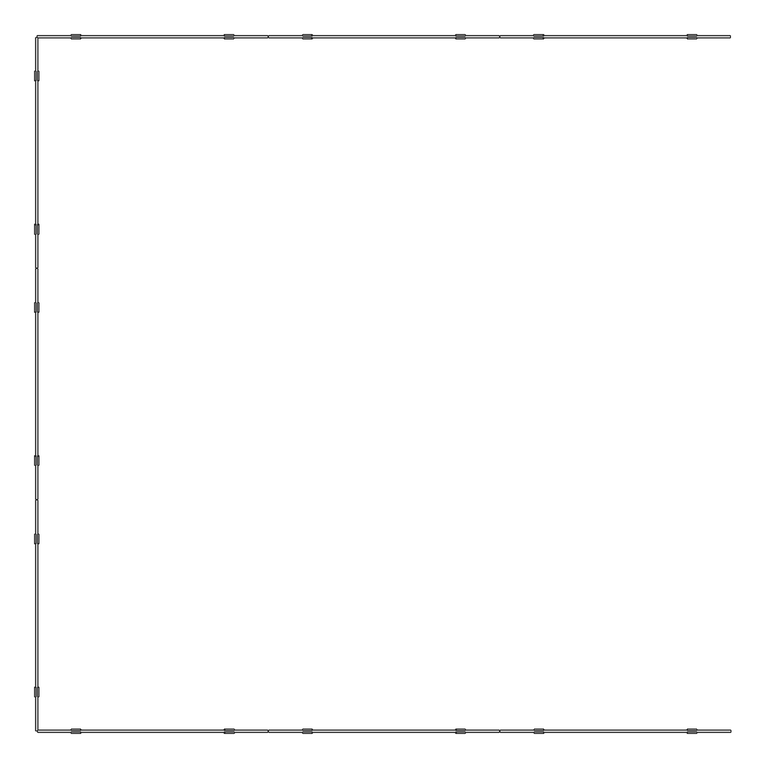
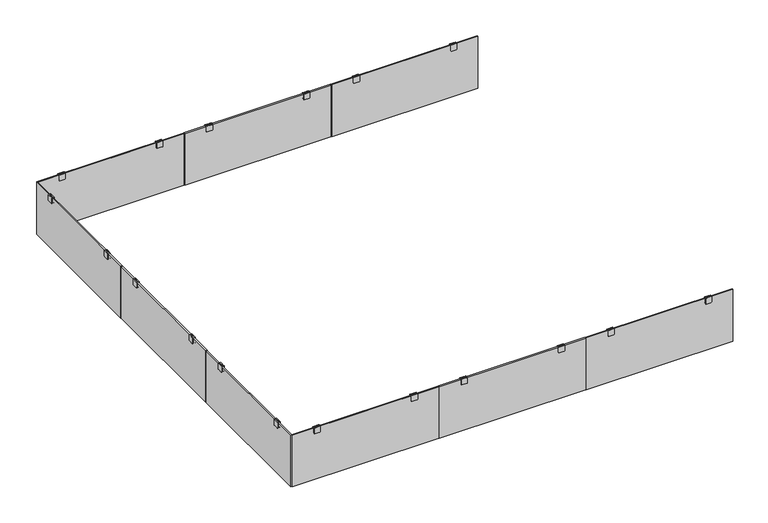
"""IFC4 building model written with IfcOpenShell, lengths in millimetres: railing geometry, Railing - VIVA Railings - Smoke Baffle System - Surface Mount."""

import ifcopenshell
import ifcopenshell.guid

model = None  # the IFC model being written
_history = None  # IfcOwnerHistory: only IFC2X3 demands one
_inside = {}  # id of a spatial element -> (the spatial element, [elements in it])
_under = {}  # id of a project, library or spatial element -> (it, [spatial elements below it])
_declared = {}  # id of a project -> (the project, [libraries it declares])
_typed = {}  # id of a type object -> (the type object, [elements of that type])
_made_of = {}  # id of a material, layer set ... -> (it, [elements and type objects made of it])


def new_model(schema):
    """Start an empty IFC model of exactly this schema.

    Asked for "IFC4X3", IfcOpenShell would pick the latest addendum, in which some entities
    have other attributes; the version numbers below select the first issue.
    IFC2X3 requires an IfcOwnerHistory on every rooted entity: one is made here for all.
    """
    global model, _history
    if schema == "IFC4X3":
        model = ifcopenshell.file(schema_version=(4, 3, 0, 0))
    else:
        model = ifcopenshell.file(schema=schema)
    _inside.clear()
    _under.clear()
    _declared.clear()
    _typed.clear()
    _made_of.clear()
    _history = None
    if model.schema == "IFC2X3":
        org = make("IfcOrganization", Name="unknown")
        user = make(
            "IfcPersonAndOrganization",
            ThePerson=make("IfcPerson", FamilyName="unknown"),
            TheOrganization=org,
        )
        app = make(
            "IfcApplication",
            ApplicationDeveloper=org,
            Version="unknown",
            ApplicationFullName="unknown",
            ApplicationIdentifier="unknown",
        )
        _history = make(
            "IfcOwnerHistory",
            OwningUser=user,
            OwningApplication=app,
            ChangeAction="ADDED",
            CreationDate=0,
        )
    return model


def make(cls, **values):
    """One entity of the class cls with the attributes given. An attribute that is None is left unset."""
    return model.create_entity(
        cls, **{name: value for name, value in values.items() if value is not None}
    )


def rooted(cls, **values):
    """An entity with a GlobalId (a new one), such as an element, a storey or a relation."""
    return make(cls, GlobalId=ifcopenshell.guid.new(), OwnerHistory=_history, **values)


def si_unit(unit_type, name, prefix=None):
    """IfcSIUnit, for example si_unit("LENGTHUNIT", "METRE", prefix="MILLI")."""
    return make("IfcSIUnit", UnitType=unit_type, Prefix=prefix, Name=name)


def assignment(units):
    """IfcUnitAssignment: the units of a project."""
    return None if units is None else make("IfcUnitAssignment", Units=units)


def point(xyz):
    """IfcCartesianPoint."""
    return None if xyz is None else make("IfcCartesianPoint", Coordinates=xyz)


def direction(xyz):
    """IfcDirection."""
    return None if xyz is None else make("IfcDirection", DirectionRatios=xyz)


def frame(location, z_axis=None, x_axis=None):
    """IfcAxis2Placement3D, a coordinate frame: its origin and axes. An axis left out is left unset."""
    return make(
        "IfcAxis2Placement3D",
        Location=point(location),
        Axis=direction(z_axis),
        RefDirection=direction(x_axis),
    )


def frame_2d(location, x_axis=None):
    """IfcAxis2Placement2D, a coordinate frame in the plane: its origin and x axis."""
    return make(
        "IfcAxis2Placement2D", Location=point(location), RefDirection=direction(x_axis)
    )


def origin():
    """The frame at (0, 0, 0) with its axes left unset."""
    return frame((0.0, 0.0, 0.0))


def place(relative_to, where):
    """IfcLocalPlacement: puts the frame where relative to a parent placement (None: the world)."""
    return make(
        "IfcLocalPlacement", PlacementRelTo=relative_to, RelativePlacement=where
    )


def context(
    kind, dimensions, precision=None, world=None, true_north=None, identifier=None
):
    """IfcGeometricRepresentationContext, for example the 3D "Model" context."""
    return make(
        "IfcGeometricRepresentationContext",
        ContextIdentifier=identifier,
        ContextType=kind,
        CoordinateSpaceDimension=dimensions,
        Precision=precision,
        WorldCoordinateSystem=world,
        TrueNorth=true_north,
    )


def project(units=None, contexts=None):
    """IfcProject with its units and contexts."""
    return rooted(
        "IfcProject",
        Name="project",
        RepresentationContexts=contexts,
        UnitsInContext=assignment(units),
    )


def spatial(cls, under=None, at=None, **own):
    """A site, building, storey or space (cls), placed at a placement, below another one or the project."""
    s = rooted(cls, ObjectPlacement=at, **own)
    if under is not None:
        _under.setdefault(under.id(), (under, []))[1].append(s)
    return s


def polyline(points):
    """IfcPolyline through the points."""
    return make("IfcPolyline", Points=[point(p) for p in points])


def circle_curve(where, radius):
    """IfcCircle in the frame where."""
    return make("IfcCircle", Position=where, Radius=radius)


def trimmed(basis, trim1, trim2, sense, master):
    """IfcTrimmedCurve: the piece of a basis curve between two trims."""
    return make(
        "IfcTrimmedCurve",
        BasisCurve=basis,
        Trim1=trim1,
        Trim2=trim2,
        SenseAgreement=sense,
        MasterRepresentation=master,
    )


def segment(curve, same_sense, transition):
    """IfcCompositeCurveSegment."""
    return make(
        "IfcCompositeCurveSegment",
        Transition=transition,
        SameSense=same_sense,
        ParentCurve=curve,
    )


def composite_curve(segments, self_intersect=None):
    """IfcCompositeCurve: segments joined end to end."""
    return make("IfcCompositeCurve", Segments=segments, SelfIntersect=self_intersect)


def outline(outer, holes=None, kind="AREA"):
    """IfcArbitraryClosedProfileDef: a profile drawn as a closed curve; with holes, ...WithVoids."""
    if holes is None:
        return make("IfcArbitraryClosedProfileDef", ProfileType=kind, OuterCurve=outer)
    return make(
        "IfcArbitraryProfileDefWithVoids",
        ProfileType=kind,
        OuterCurve=outer,
        InnerCurves=holes,
    )


def extrude(swept, where, along, depth):
    """IfcExtrudedAreaSolid: the profile swept, set in the frame where, extruded along a direction by depth."""
    return make(
        "IfcExtrudedAreaSolid",
        SweptArea=swept,
        Position=where,
        ExtrudedDirection=direction(along),
        Depth=depth,
    )


def shape(context_of_items, identifier, shape_type, items):
    """IfcShapeRepresentation: the items that make up one representation, for example the "Body"."""
    return make(
        "IfcShapeRepresentation",
        ContextOfItems=context_of_items,
        RepresentationIdentifier=identifier,
        RepresentationType=shape_type,
        Items=items,
    )


def source(mapping_origin, context_of_items, identifier, shape_type, items):
    """IfcRepresentationMap: a shape defined once, which mapped items show again and again."""
    return make(
        "IfcRepresentationMap",
        MappingOrigin=mapping_origin,
        MappedRepresentation=shape(context_of_items, identifier, shape_type, items),
    )


def transform(
    local_origin,
    x_axis=None,
    y_axis=None,
    z_axis=None,
    scale=None,
    scale2=None,
    scale3=None,
    uniform=True,
):
    """IfcCartesianTransformationOperator3D, or its non-uniform kind. x_axis, y_axis, z_axis: its Axis1, 2, 3."""
    if uniform:
        return make(
            "IfcCartesianTransformationOperator3D",
            Axis1=direction(x_axis),
            Axis2=direction(y_axis),
            LocalOrigin=point(local_origin),
            Scale=scale,
            Axis3=direction(z_axis),
        )
    return make(
        "IfcCartesianTransformationOperator3DnonUniform",
        Axis1=direction(x_axis),
        Axis2=direction(y_axis),
        LocalOrigin=point(local_origin),
        Scale=scale,
        Axis3=direction(z_axis),
        Scale2=scale2,
        Scale3=scale3,
    )


def mapped(mapping_source, mapping_target):
    """IfcMappedItem: shows the shape of a source again, moved by a transform."""
    return make(
        "IfcMappedItem", MappingSource=mapping_source, MappingTarget=mapping_target
    )


def made_of(thing, what):
    """Note that an element or type object is made of a material, layer set ...; save() writes the relation."""
    if what is not None:
        _made_of.setdefault(what.id(), (what, []))[1].append(thing)
    return thing


def element(
    cls,
    number,
    at=None,
    inside=None,
    cuts=None,
    type_object=None,
    material=None,
    context=None,
    identifier="Body",
    shape_type=None,
    held_by="IfcProductDefinitionShape",
    body=None,
    shapes=None,
    **own,
):
    """One element of the class cls, such as IfcWall. Its Tag is "e" and its number.

    at: its placement. inside: the storey or other place that contains it. cuts: it is an
    opening in that element (IfcRelVoidsElement). A single representation is given by context,
    identifier, shape_type and body (its items); several are given by shapes. held_by: the class
    of the entity that holds the representations. save() writes the other relations.
    """
    e = rooted(cls, Tag="e%d" % number, ObjectPlacement=at, **own)
    if body is not None:
        shapes = [shape(context, identifier, shape_type, body)]
    if shapes is not None:
        e.Representation = make(held_by, Representations=shapes)
    if inside is not None:
        _inside.setdefault(inside.id(), (inside, []))[1].append(e)
    if cuts is not None:
        rooted(
            "IfcRelVoidsElement", RelatingBuildingElement=cuts, RelatedOpeningElement=e
        )
    if type_object is not None:
        _typed.setdefault(type_object.id(), (type_object, []))[1].append(e)
    return made_of(e, material)


def aggregate(whole, parts):
    """IfcRelAggregates: a whole, such as a stair, and the parts it consists of."""
    return rooted("IfcRelAggregates", RelatingObject=whole, RelatedObjects=parts)


def save(model, path):
    """Write the relations noted so far, then the file.

    IfcRelAggregates (storeys below a building ...), IfcRelContainedInSpatialStructure (elements
    in a storey), IfcRelDefinesByType, IfcRelAssociatesMaterial and IfcRelDeclares: one each for
    every whole, place, type object, material and project.
    """
    for whole, parts in _under.values():
        aggregate(whole, parts)
    for where, things in _inside.values():
        rooted(
            "IfcRelContainedInSpatialStructure",
            RelatedElements=things,
            RelatingStructure=where,
        )
    for kind, things in _typed.values():
        rooted("IfcRelDefinesByType", RelatedObjects=things, RelatingType=kind)
    for what, things in _made_of.values():
        rooted("IfcRelAssociatesMaterial", RelatedObjects=things, RelatingMaterial=what)
    for by, libraries in _declared.values():
        rooted("IfcRelDeclares", RelatingContext=by, RelatedDefinitions=libraries)
    model.write(path)


def railing_4484aca7(model_context):
    return source(origin(), model_context, "Body", "SweptSolid", [
        extrude(outline(composite_curve([segment(polyline([(-120.6465092, -2225.1853816), (-76.3352319, -2225.1853816), (-76.3352319, -2228.9953816), (-76.3352319, -2275.9853816), (-120.5923479, -2275.9853816)]), True, "CONTINUOUS"), segment(trimmed(circle_curve(frame_2d((-120.5923479, -2269.4424976)), 6.542884), [point((-120.5923479, -2275.9853816))], [point((-127.1352319, -2269.4424976))], False, "CARTESIAN"), True, "CONTINUOUS"), segment(polyline([(-127.1352319, -2269.4424976), (-127.1352319, -2231.6741042)]), True, "CONTINUOUS"), segment(trimmed(circle_curve(frame_2d((-120.6465092, -2231.6741042)), 6.4887227), [point((-127.1352319, -2231.6741042))], [point((-120.6465092, -2225.1853816))], False, "CARTESIAN"), True, "CONTINUOUS")], self_intersect=False)), frame((0.0, 4760.0422749, 0.0), z_axis=(0.0, 1.0, 0.0), x_axis=(0.0, 0.0, 1.0)), (0.0, 0.0, 1.0), 4.5),
        extrude(outline(composite_curve([segment(polyline([(-120.6465092, -2225.1853816), (-76.3352319, -2225.1853816), (-76.3352319, -2228.9953816), (-76.3352319, -2275.9853816), (-120.5923479, -2275.9853816)]), True, "CONTINUOUS"), segment(trimmed(circle_curve(frame_2d((-120.5923479, -2269.4424976)), 6.542884), [point((-120.5923479, -2275.9853816))], [point((-127.1352319, -2269.4424976))], False, "CARTESIAN"), True, "CONTINUOUS"), segment(polyline([(-127.1352319, -2269.4424976), (-127.1352319, -2231.6741042)]), True, "CONTINUOUS"), segment(trimmed(circle_curve(frame_2d((-120.6465092, -2231.6741042)), 6.4887227), [point((-127.1352319, -2231.6741042))], [point((-120.6465092, -2225.1853816))], False, "CARTESIAN"), True, "CONTINUOUS")], self_intersect=False)), frame((0.0, 4744.0222749, 0.0), z_axis=(0.0, 1.0, 0.0), x_axis=(0.0, 0.0, 1.0)), (0.0, 0.0, 1.0), 4.5),
        extrude(outline(composite_curve([segment(trimmed(circle_curve(frame_2d((-120.6465092, -1463.0466589)), 6.4887227), [point((-120.6465092, -1469.5353816))], [point((-127.1352319, -1463.0466589))], False, "CARTESIAN"), True, "CONTINUOUS"), segment(polyline([(-127.1352319, -1463.0466589), (-127.1352319, -1425.2782656)]), True, "CONTINUOUS"), segment(trimmed(circle_curve(frame_2d((-120.5923479, -1425.2782656)), 6.542884), [point((-127.1352319, -1425.2782656))], [point((-120.5923479, -1418.7353816))], False, "CARTESIAN"), True, "CONTINUOUS"), segment(polyline([(-120.5923479, -1418.7353816), (-76.3352319, -1418.7353816), (-76.3352319, -1465.7253816), (-76.3352319, -1469.5353816), (-120.6465092, -1469.5353816)]), True, "CONTINUOUS")], self_intersect=False)), frame((0.0, 4760.0422749, 0.0), z_axis=(0.0, 1.0, 0.0), x_axis=(0.0, 0.0, 1.0)), (0.0, 0.0, 1.0), 4.5),
        extrude(outline(composite_curve([segment(trimmed(circle_curve(frame_2d((-120.6465092, -1463.0466589)), 6.4887227), [point((-120.6465092, -1469.5353816))], [point((-127.1352319, -1463.0466589))], False, "CARTESIAN"), True, "CONTINUOUS"), segment(polyline([(-127.1352319, -1463.0466589), (-127.1352319, -1425.2782656)]), True, "CONTINUOUS"), segment(trimmed(circle_curve(frame_2d((-120.5923479, -1425.2782656)), 6.542884), [point((-127.1352319, -1425.2782656))], [point((-120.5923479, -1418.7353816))], False, "CARTESIAN"), True, "CONTINUOUS"), segment(polyline([(-120.5923479, -1418.7353816), (-76.3352319, -1418.7353816), (-76.3352319, -1465.7253816), (-76.3352319, -1469.5353816), (-120.6465092, -1469.5353816)]), True, "CONTINUOUS")], self_intersect=False)), frame((0.0, 4744.0222749, 0.0), z_axis=(0.0, 1.0, 0.0), x_axis=(0.0, 0.0, 1.0)), (0.0, 0.0, 1.0), 4.5),
        extrude(outline(polyline([(-2453.8336169, 4759.0447749), (-1240.9353816, 4759.0447749), (-1240.9353816, 4749.5197749), (-2453.8336169, 4749.5197749), (-2453.8336169, 4759.0447749)])), frame((0.0, 0.0, -533.003125), z_axis=(0.0, 0.0, 1.0), x_axis=(1.0, 0.0, 0.0)), (0.0, 0.0, 1.0), 452.8054687),
        extrude(outline(composite_curve([segment(polyline([(-120.6465092, -3444.3853816), (-76.3352319, -3444.3853816), (-76.3352319, -3448.1953816), (-76.3352319, -3495.1853816), (-120.5923479, -3495.1853816)]), True, "CONTINUOUS"), segment(trimmed(circle_curve(frame_2d((-120.5923479, -3488.6424976)), 6.542884), [point((-120.5923479, -3495.1853816))], [point((-127.1352319, -3488.6424976))], False, "CARTESIAN"), True, "CONTINUOUS"), segment(polyline([(-127.1352319, -3488.6424976), (-127.1352319, -3450.8741042)]), True, "CONTINUOUS"), segment(trimmed(circle_curve(frame_2d((-120.6465092, -3450.8741042)), 6.4887227), [point((-127.1352319, -3450.8741042))], [point((-120.6465092, -3444.3853816))], False, "CARTESIAN"), True, "CONTINUOUS")], self_intersect=False)), frame((0.0, 4760.0422749, 0.0), z_axis=(0.0, 1.0, 0.0), x_axis=(0.0, 0.0, 1.0)), (0.0, 0.0, 1.0), 4.5),
        extrude(outline(composite_curve([segment(polyline([(-120.6465092, -3444.3853816), (-76.3352319, -3444.3853816), (-76.3352319, -3448.1953816), (-76.3352319, -3495.1853816), (-120.5923479, -3495.1853816)]), True, "CONTINUOUS"), segment(trimmed(circle_curve(frame_2d((-120.5923479, -3488.6424976)), 6.542884), [point((-120.5923479, -3495.1853816))], [point((-127.1352319, -3488.6424976))], False, "CARTESIAN"), True, "CONTINUOUS"), segment(polyline([(-127.1352319, -3488.6424976), (-127.1352319, -3450.8741042)]), True, "CONTINUOUS"), segment(trimmed(circle_curve(frame_2d((-120.6465092, -3450.8741042)), 6.4887227), [point((-127.1352319, -3450.8741042))], [point((-120.6465092, -3444.3853816))], False, "CARTESIAN"), True, "CONTINUOUS")], self_intersect=False)), frame((0.0, 4744.0222749, 0.0), z_axis=(0.0, 1.0, 0.0), x_axis=(0.0, 0.0, 1.0)), (0.0, 0.0, 1.0), 4.5),
        extrude(outline(composite_curve([segment(trimmed(circle_curve(frame_2d((-120.6465092, -2682.2466589)), 6.4887227), [point((-120.6465092, -2688.7353816))], [point((-127.1352319, -2682.2466589))], False, "CARTESIAN"), True, "CONTINUOUS"), segment(polyline([(-127.1352319, -2682.2466589), (-127.1352319, -2644.4782656)]), True, "CONTINUOUS"), segment(trimmed(circle_curve(frame_2d((-120.5923479, -2644.4782656)), 6.542884), [point((-127.1352319, -2644.4782656))], [point((-120.5923479, -2637.9353816))], False, "CARTESIAN"), True, "CONTINUOUS"), segment(polyline([(-120.5923479, -2637.9353816), (-76.3352319, -2637.9353816), (-76.3352319, -2684.9253816), (-76.3352319, -2688.7353816), (-120.6465092, -2688.7353816)]), True, "CONTINUOUS")], self_intersect=False)), frame((0.0, 4760.0422749, 0.0), z_axis=(0.0, 1.0, 0.0), x_axis=(0.0, 0.0, 1.0)), (0.0, 0.0, 1.0), 4.5),
        extrude(outline(composite_curve([segment(trimmed(circle_curve(frame_2d((-120.6465092, -2682.2466589)), 6.4887227), [point((-120.6465092, -2688.7353816))], [point((-127.1352319, -2682.2466589))], False, "CARTESIAN"), True, "CONTINUOUS"), segment(polyline([(-127.1352319, -2682.2466589), (-127.1352319, -2644.4782656)]), True, "CONTINUOUS"), segment(trimmed(circle_curve(frame_2d((-120.5923479, -2644.4782656)), 6.542884), [point((-127.1352319, -2644.4782656))], [point((-120.5923479, -2637.9353816))], False, "CARTESIAN"), True, "CONTINUOUS"), segment(polyline([(-120.5923479, -2637.9353816), (-76.3352319, -2637.9353816), (-76.3352319, -2684.9253816), (-76.3352319, -2688.7353816), (-120.6465092, -2688.7353816)]), True, "CONTINUOUS")], self_intersect=False)), frame((0.0, 4744.0222749, 0.0), z_axis=(0.0, 1.0, 0.0), x_axis=(0.0, 0.0, 1.0)), (0.0, 0.0, 1.0), 4.5),
        extrude(outline(polyline([(-3673.0336169, 4759.0447749), (-2460.1353816, 4759.0447749), (-2460.1353816, 4749.5197749), (-3673.0336169, 4749.5197749), (-3673.0336169, 4759.0447749)])), frame((0.0, 0.0, -533.003125), z_axis=(0.0, 0.0, 1.0), x_axis=(1.0, 0.0, 0.0)), (0.0, 0.0, 1.0), 452.8054687),
        extrude(outline(composite_curve([segment(polyline([(-120.6465092, -4663.5853816), (-76.3352319, -4663.5853816), (-76.3352319, -4667.3953816), (-76.3352319, -4714.3853816), (-120.5923479, -4714.3853816)]), True, "CONTINUOUS"), segment(trimmed(circle_curve(frame_2d((-120.5923479, -4707.8424976)), 6.542884), [point((-120.5923479, -4714.3853816))], [point((-127.1352319, -4707.8424976))], False, "CARTESIAN"), True, "CONTINUOUS"), segment(polyline([(-127.1352319, -4707.8424976), (-127.1352319, -4670.0741042)]), True, "CONTINUOUS"), segment(trimmed(circle_curve(frame_2d((-120.6465092, -4670.0741042)), 6.4887227), [point((-127.1352319, -4670.0741042))], [point((-120.6465092, -4663.5853816))], False, "CARTESIAN"), True, "CONTINUOUS")], self_intersect=False)), frame((0.0, 4760.0422749, 0.0), z_axis=(0.0, 1.0, 0.0), x_axis=(0.0, 0.0, 1.0)), (0.0, 0.0, 1.0), 4.5),
        extrude(outline(composite_curve([segment(polyline([(-120.6465092, -4663.5853816), (-76.3352319, -4663.5853816), (-76.3352319, -4667.3953816), (-76.3352319, -4714.3853816), (-120.5923479, -4714.3853816)]), True, "CONTINUOUS"), segment(trimmed(circle_curve(frame_2d((-120.5923479, -4707.8424976)), 6.542884), [point((-120.5923479, -4714.3853816))], [point((-127.1352319, -4707.8424976))], False, "CARTESIAN"), True, "CONTINUOUS"), segment(polyline([(-127.1352319, -4707.8424976), (-127.1352319, -4670.0741042)]), True, "CONTINUOUS"), segment(trimmed(circle_curve(frame_2d((-120.6465092, -4670.0741042)), 6.4887227), [point((-127.1352319, -4670.0741042))], [point((-120.6465092, -4663.5853816))], False, "CARTESIAN"), True, "CONTINUOUS")], self_intersect=False)), frame((0.0, 4744.0222749, 0.0), z_axis=(0.0, 1.0, 0.0), x_axis=(0.0, 0.0, 1.0)), (0.0, 0.0, 1.0), 4.5),
        extrude(outline(composite_curve([segment(trimmed(circle_curve(frame_2d((-120.6465092, -3901.4466589)), 6.4887227), [point((-120.6465092, -3907.9353816))], [point((-127.1352319, -3901.4466589))], False, "CARTESIAN"), True, "CONTINUOUS"), segment(polyline([(-127.1352319, -3901.4466589), (-127.1352319, -3863.6782656)]), True, "CONTINUOUS"), segment(trimmed(circle_curve(frame_2d((-120.5923479, -3863.6782656)), 6.542884), [point((-127.1352319, -3863.6782656))], [point((-120.5923479, -3857.1353816))], False, "CARTESIAN"), True, "CONTINUOUS"), segment(polyline([(-120.5923479, -3857.1353816), (-76.3352319, -3857.1353816), (-76.3352319, -3904.1253816), (-76.3352319, -3907.9353816), (-120.6465092, -3907.9353816)]), True, "CONTINUOUS")], self_intersect=False)), frame((0.0, 4760.0422749, 0.0), z_axis=(0.0, 1.0, 0.0), x_axis=(0.0, 0.0, 1.0)), (0.0, 0.0, 1.0), 4.5),
        extrude(outline(composite_curve([segment(trimmed(circle_curve(frame_2d((-120.6465092, -3901.4466589)), 6.4887227), [point((-120.6465092, -3907.9353816))], [point((-127.1352319, -3901.4466589))], False, "CARTESIAN"), True, "CONTINUOUS"), segment(polyline([(-127.1352319, -3901.4466589), (-127.1352319, -3863.6782656)]), True, "CONTINUOUS"), segment(trimmed(circle_curve(frame_2d((-120.5923479, -3863.6782656)), 6.542884), [point((-127.1352319, -3863.6782656))], [point((-120.5923479, -3857.1353816))], False, "CARTESIAN"), True, "CONTINUOUS"), segment(polyline([(-120.5923479, -3857.1353816), (-76.3352319, -3857.1353816), (-76.3352319, -3904.1253816), (-76.3352319, -3907.9353816), (-120.6465092, -3907.9353816)]), True, "CONTINUOUS")], self_intersect=False)), frame((0.0, 4744.0222749, 0.0), z_axis=(0.0, 1.0, 0.0), x_axis=(0.0, 0.0, 1.0)), (0.0, 0.0, 1.0), 4.5),
        extrude(outline(polyline([(-4892.2336169, 4759.0447749), (-3679.3353816, 4759.0447749), (-3679.3353816, 4749.5197749), (-4892.2336169, 4749.5197749), (-4892.2336169, 4759.0447749)])), frame((0.0, 0.0, -533.003125), z_axis=(0.0, 0.0, 1.0), x_axis=(1.0, 0.0, 0.0)), (0.0, 0.0, 1.0), 452.8054687),
        extrude(outline(composite_curve([segment(polyline([(5741.3242283, -120.6465092), (5741.3242283, -76.3352319), (5745.1342283, -76.3352319), (5792.1242283, -76.3352319), (5792.1242283, -120.5923479)]), True, "CONTINUOUS"), segment(trimmed(circle_curve(frame_2d((5785.5813443, -120.5923479)), 6.542884), [point((5792.1242283, -120.5923479))], [point((5785.5813443, -127.1352319))], False, "CARTESIAN"), True, "CONTINUOUS"), segment(polyline([(5785.5813443, -127.1352319), (5747.8129509, -127.1352319)]), True, "CONTINUOUS"), segment(trimmed(circle_curve(frame_2d((5747.8129509, -120.6465092)), 6.4887227), [point((5747.8129509, -127.1352319))], [point((5741.3242283, -120.6465092))], False, "CARTESIAN"), True, "CONTINUOUS")], self_intersect=False)), frame((-4889.9834282, 0.0, 0.0), z_axis=(1.0, 0.0, 0.0), x_axis=(0.0, 1.0, 0.0)), (0.0, 0.0, 1.0), 4.5),
        extrude(outline(composite_curve([segment(polyline([(5741.3242283, -120.6465092), (5741.3242283, -76.3352319), (5745.1342283, -76.3352319), (5792.1242283, -76.3352319), (5792.1242283, -120.5923479)]), True, "CONTINUOUS"), segment(trimmed(circle_curve(frame_2d((5785.5813443, -120.5923479)), 6.542884), [point((5792.1242283, -120.5923479))], [point((5785.5813443, -127.1352319))], False, "CARTESIAN"), True, "CONTINUOUS"), segment(polyline([(5785.5813443, -127.1352319), (5747.8129509, -127.1352319)]), True, "CONTINUOUS"), segment(trimmed(circle_curve(frame_2d((5747.8129509, -120.6465092)), 6.4887227), [point((5747.8129509, -127.1352319))], [point((5741.3242283, -120.6465092))], False, "CARTESIAN"), True, "CONTINUOUS")], self_intersect=False)), frame((-4906.0034282, 0.0, 0.0), z_axis=(1.0, 0.0, 0.0), x_axis=(0.0, 1.0, 0.0)), (0.0, 0.0, 1.0), 4.5),
        extrude(outline(composite_curve([segment(trimmed(circle_curve(frame_2d((4979.1855056, -120.6465092)), 6.4887227), [point((4985.6742283, -120.6465092))], [point((4979.1855056, -127.1352319))], False, "CARTESIAN"), True, "CONTINUOUS"), segment(polyline([(4979.1855056, -127.1352319), (4941.4171122, -127.1352319)]), True, "CONTINUOUS"), segment(trimmed(circle_curve(frame_2d((4941.4171122, -120.5923479)), 6.542884), [point((4941.4171122, -127.1352319))], [point((4934.8742283, -120.5923479))], False, "CARTESIAN"), True, "CONTINUOUS"), segment(polyline([(4934.8742283, -120.5923479), (4934.8742283, -76.3352319), (4981.8642283, -76.3352319), (4985.6742283, -76.3352319), (4985.6742283, -120.6465092)]), True, "CONTINUOUS")], self_intersect=False)), frame((-4889.9834282, 0.0, 0.0), z_axis=(1.0, 0.0, 0.0), x_axis=(0.0, 1.0, 0.0)), (0.0, 0.0, 1.0), 4.5),
        extrude(outline(composite_curve([segment(trimmed(circle_curve(frame_2d((4979.1855056, -120.6465092)), 6.4887227), [point((4985.6742283, -120.6465092))], [point((4979.1855056, -127.1352319))], False, "CARTESIAN"), True, "CONTINUOUS"), segment(polyline([(4979.1855056, -127.1352319), (4941.4171122, -127.1352319)]), True, "CONTINUOUS"), segment(trimmed(circle_curve(frame_2d((4941.4171122, -120.5923479)), 6.542884), [point((4941.4171122, -127.1352319))], [point((4934.8742283, -120.5923479))], False, "CARTESIAN"), True, "CONTINUOUS"), segment(polyline([(4934.8742283, -120.5923479), (4934.8742283, -76.3352319), (4981.8642283, -76.3352319), (4985.6742283, -76.3352319), (4985.6742283, -120.6465092)]), True, "CONTINUOUS")], self_intersect=False)), frame((-4906.0034282, 0.0, 0.0), z_axis=(1.0, 0.0, 0.0), x_axis=(0.0, 1.0, 0.0)), (0.0, 0.0, 1.0), 4.5),
        extrude(outline(polyline([(-4890.9809282, 5969.9724636), (-4890.9809282, 4757.0742283), (-4900.5059282, 4757.0742283), (-4900.5059282, 5969.9724636), (-4890.9809282, 5969.9724636)])), frame((0.0, 0.0, -533.003125), z_axis=(0.0, 0.0, 1.0), x_axis=(1.0, 0.0, 0.0)), (0.0, 0.0, 1.0), 452.8054687),
        extrude(outline(composite_curve([segment(polyline([(6960.5242283, -120.6465092), (6960.5242283, -76.3352319), (6964.3342283, -76.3352319), (7011.3242283, -76.3352319), (7011.3242283, -120.5923479)]), True, "CONTINUOUS"), segment(trimmed(circle_curve(frame_2d((7004.7813443, -120.5923479)), 6.542884), [point((7011.3242283, -120.5923479))], [point((7004.7813443, -127.1352319))], False, "CARTESIAN"), True, "CONTINUOUS"), segment(polyline([(7004.7813443, -127.1352319), (6967.0129509, -127.1352319)]), True, "CONTINUOUS"), segment(trimmed(circle_curve(frame_2d((6967.0129509, -120.6465092)), 6.4887227), [point((6967.0129509, -127.1352319))], [point((6960.5242283, -120.6465092))], False, "CARTESIAN"), True, "CONTINUOUS")], self_intersect=False)), frame((-4889.9834282, 0.0, 0.0), z_axis=(1.0, 0.0, 0.0), x_axis=(0.0, 1.0, 0.0)), (0.0, 0.0, 1.0), 4.5),
        extrude(outline(composite_curve([segment(polyline([(6960.5242283, -120.6465092), (6960.5242283, -76.3352319), (6964.3342283, -76.3352319), (7011.3242283, -76.3352319), (7011.3242283, -120.5923479)]), True, "CONTINUOUS"), segment(trimmed(circle_curve(frame_2d((7004.7813443, -120.5923479)), 6.542884), [point((7011.3242283, -120.5923479))], [point((7004.7813443, -127.1352319))], False, "CARTESIAN"), True, "CONTINUOUS"), segment(polyline([(7004.7813443, -127.1352319), (6967.0129509, -127.1352319)]), True, "CONTINUOUS"), segment(trimmed(circle_curve(frame_2d((6967.0129509, -120.6465092)), 6.4887227), [point((6967.0129509, -127.1352319))], [point((6960.5242283, -120.6465092))], False, "CARTESIAN"), True, "CONTINUOUS")], self_intersect=False)), frame((-4906.0034282, 0.0, 0.0), z_axis=(1.0, 0.0, 0.0), x_axis=(0.0, 1.0, 0.0)), (0.0, 0.0, 1.0), 4.5),
        extrude(outline(composite_curve([segment(trimmed(circle_curve(frame_2d((6198.3855056, -120.6465092)), 6.4887227), [point((6204.8742283, -120.6465092))], [point((6198.3855056, -127.1352319))], False, "CARTESIAN"), True, "CONTINUOUS"), segment(polyline([(6198.3855056, -127.1352319), (6160.6171122, -127.1352319)]), True, "CONTINUOUS"), segment(trimmed(circle_curve(frame_2d((6160.6171122, -120.5923479)), 6.542884), [point((6160.6171122, -127.1352319))], [point((6154.0742283, -120.5923479))], False, "CARTESIAN"), True, "CONTINUOUS"), segment(polyline([(6154.0742283, -120.5923479), (6154.0742283, -76.3352319), (6201.0642283, -76.3352319), (6204.8742283, -76.3352319), (6204.8742283, -120.6465092)]), True, "CONTINUOUS")], self_intersect=False)), frame((-4889.9834282, 0.0, 0.0), z_axis=(1.0, 0.0, 0.0), x_axis=(0.0, 1.0, 0.0)), (0.0, 0.0, 1.0), 4.5),
        extrude(outline(composite_curve([segment(trimmed(circle_curve(frame_2d((6198.3855056, -120.6465092)), 6.4887227), [point((6204.8742283, -120.6465092))], [point((6198.3855056, -127.1352319))], False, "CARTESIAN"), True, "CONTINUOUS"), segment(polyline([(6198.3855056, -127.1352319), (6160.6171122, -127.1352319)]), True, "CONTINUOUS"), segment(trimmed(circle_curve(frame_2d((6160.6171122, -120.5923479)), 6.542884), [point((6160.6171122, -127.1352319))], [point((6154.0742283, -120.5923479))], False, "CARTESIAN"), True, "CONTINUOUS"), segment(polyline([(6154.0742283, -120.5923479), (6154.0742283, -76.3352319), (6201.0642283, -76.3352319), (6204.8742283, -76.3352319), (6204.8742283, -120.6465092)]), True, "CONTINUOUS")], self_intersect=False)), frame((-4906.0034282, 0.0, 0.0), z_axis=(1.0, 0.0, 0.0), x_axis=(0.0, 1.0, 0.0)), (0.0, 0.0, 1.0), 4.5),
        extrude(outline(polyline([(-4890.9809282, 7189.1724636), (-4890.9809282, 5976.2742283), (-4900.5059282, 5976.2742283), (-4900.5059282, 7189.1724636), (-4890.9809282, 7189.1724636)])), frame((0.0, 0.0, -533.003125), z_axis=(0.0, 0.0, 1.0), x_axis=(1.0, 0.0, 0.0)), (0.0, 0.0, 1.0), 452.8054687),
        extrude(outline(composite_curve([segment(polyline([(8179.7242283, -120.6465092), (8179.7242283, -76.3352319), (8183.5342283, -76.3352319), (8230.5242283, -76.3352319), (8230.5242283, -120.5923479)]), True, "CONTINUOUS"), segment(trimmed(circle_curve(frame_2d((8223.9813443, -120.5923479)), 6.542884), [point((8230.5242283, -120.5923479))], [point((8223.9813443, -127.1352319))], False, "CARTESIAN"), True, "CONTINUOUS"), segment(polyline([(8223.9813443, -127.1352319), (8186.2129509, -127.1352319)]), True, "CONTINUOUS"), segment(trimmed(circle_curve(frame_2d((8186.2129509, -120.6465092)), 6.4887227), [point((8186.2129509, -127.1352319))], [point((8179.7242283, -120.6465092))], False, "CARTESIAN"), True, "CONTINUOUS")], self_intersect=False)), frame((-4889.9834282, 0.0, 0.0), z_axis=(1.0, 0.0, 0.0), x_axis=(0.0, 1.0, 0.0)), (0.0, 0.0, 1.0), 4.5),
        extrude(outline(composite_curve([segment(polyline([(8179.7242283, -120.6465092), (8179.7242283, -76.3352319), (8183.5342283, -76.3352319), (8230.5242283, -76.3352319), (8230.5242283, -120.5923479)]), True, "CONTINUOUS"), segment(trimmed(circle_curve(frame_2d((8223.9813443, -120.5923479)), 6.542884), [point((8230.5242283, -120.5923479))], [point((8223.9813443, -127.1352319))], False, "CARTESIAN"), True, "CONTINUOUS"), segment(polyline([(8223.9813443, -127.1352319), (8186.2129509, -127.1352319)]), True, "CONTINUOUS"), segment(trimmed(circle_curve(frame_2d((8186.2129509, -120.6465092)), 6.4887227), [point((8186.2129509, -127.1352319))], [point((8179.7242283, -120.6465092))], False, "CARTESIAN"), True, "CONTINUOUS")], self_intersect=False)), frame((-4906.0034282, 0.0, 0.0), z_axis=(1.0, 0.0, 0.0), x_axis=(0.0, 1.0, 0.0)), (0.0, 0.0, 1.0), 4.5),
        extrude(outline(composite_curve([segment(trimmed(circle_curve(frame_2d((7417.5855056, -120.6465092)), 6.4887227), [point((7424.0742283, -120.6465092))], [point((7417.5855056, -127.1352319))], False, "CARTESIAN"), True, "CONTINUOUS"), segment(polyline([(7417.5855056, -127.1352319), (7379.8171122, -127.1352319)]), True, "CONTINUOUS"), segment(trimmed(circle_curve(frame_2d((7379.8171122, -120.5923479)), 6.542884), [point((7379.8171122, -127.1352319))], [point((7373.2742283, -120.5923479))], False, "CARTESIAN"), True, "CONTINUOUS"), segment(polyline([(7373.2742283, -120.5923479), (7373.2742283, -76.3352319), (7420.2642283, -76.3352319), (7424.0742283, -76.3352319), (7424.0742283, -120.6465092)]), True, "CONTINUOUS")], self_intersect=False)), frame((-4889.9834282, 0.0, 0.0), z_axis=(1.0, 0.0, 0.0), x_axis=(0.0, 1.0, 0.0)), (0.0, 0.0, 1.0), 4.5),
        extrude(outline(composite_curve([segment(trimmed(circle_curve(frame_2d((7417.5855056, -120.6465092)), 6.4887227), [point((7424.0742283, -120.6465092))], [point((7417.5855056, -127.1352319))], False, "CARTESIAN"), True, "CONTINUOUS"), segment(polyline([(7417.5855056, -127.1352319), (7379.8171122, -127.1352319)]), True, "CONTINUOUS"), segment(trimmed(circle_curve(frame_2d((7379.8171122, -120.5923479)), 6.542884), [point((7379.8171122, -127.1352319))], [point((7373.2742283, -120.5923479))], False, "CARTESIAN"), True, "CONTINUOUS"), segment(polyline([(7373.2742283, -120.5923479), (7373.2742283, -76.3352319), (7420.2642283, -76.3352319), (7424.0742283, -76.3352319), (7424.0742283, -120.6465092)]), True, "CONTINUOUS")], self_intersect=False)), frame((-4906.0034282, 0.0, 0.0), z_axis=(1.0, 0.0, 0.0), x_axis=(0.0, 1.0, 0.0)), (0.0, 0.0, 1.0), 4.5),
        extrude(outline(polyline([(-4890.9809282, 8408.3724636), (-4890.9809282, 7195.4742283), (-4900.5059282, 7195.4742283), (-4900.5059282, 8408.3724636), (-4890.9809282, 8408.3724636)])), frame((0.0, 0.0, -533.003125), z_axis=(0.0, 0.0, 1.0), x_axis=(1.0, 0.0, 0.0)), (0.0, 0.0, 1.0), 452.8054687),
        extrude(outline(composite_curve([segment(trimmed(circle_curve(frame_2d((-120.6465092, -3902.2127521)), 6.4887227), [point((-120.6465092, -3908.7014748))], [point((-127.1352319, -3902.2127521))], False, "CARTESIAN"), True, "CONTINUOUS"), segment(polyline([(-127.1352319, -3902.2127521), (-127.1352319, -3864.4443588)]), True, "CONTINUOUS"), segment(trimmed(circle_curve(frame_2d((-120.5923479, -3864.4443588)), 6.542884), [point((-127.1352319, -3864.4443588))], [point((-120.5923479, -3857.9014748))], False, "CARTESIAN"), True, "CONTINUOUS"), segment(polyline([(-120.5923479, -3857.9014748), (-76.3352319, -3857.9014748), (-76.3352319, -3904.8914748), (-76.3352319, -3908.7014748), (-120.6465092, -3908.7014748)]), True, "CONTINUOUS")], self_intersect=False)), frame((0.0, 8401.6222749, 0.0), z_axis=(0.0, 1.0, 0.0), x_axis=(0.0, 0.0, 1.0)), (0.0, 0.0, 1.0), 4.5),
        extrude(outline(composite_curve([segment(trimmed(circle_curve(frame_2d((-120.6465092, -3902.2127521)), 6.4887227), [point((-120.6465092, -3908.7014748))], [point((-127.1352319, -3902.2127521))], False, "CARTESIAN"), True, "CONTINUOUS"), segment(polyline([(-127.1352319, -3902.2127521), (-127.1352319, -3864.4443588)]), True, "CONTINUOUS"), segment(trimmed(circle_curve(frame_2d((-120.5923479, -3864.4443588)), 6.542884), [point((-127.1352319, -3864.4443588))], [point((-120.5923479, -3857.9014748))], False, "CARTESIAN"), True, "CONTINUOUS"), segment(polyline([(-120.5923479, -3857.9014748), (-76.3352319, -3857.9014748), (-76.3352319, -3904.8914748), (-76.3352319, -3908.7014748), (-120.6465092, -3908.7014748)]), True, "CONTINUOUS")], self_intersect=False)), frame((0.0, 8417.6422749, 0.0), z_axis=(0.0, 1.0, 0.0), x_axis=(0.0, 0.0, 1.0)), (0.0, 0.0, 1.0), 4.5),
        extrude(outline(composite_curve([segment(polyline([(-120.6465092, -4664.3514748), (-76.3352319, -4664.3514748), (-76.3352319, -4668.1614748), (-76.3352319, -4715.1514748), (-120.5923479, -4715.1514748)]), True, "CONTINUOUS"), segment(trimmed(circle_curve(frame_2d((-120.5923479, -4708.6085908)), 6.542884), [point((-120.5923479, -4715.1514748))], [point((-127.1352319, -4708.6085908))], False, "CARTESIAN"), True, "CONTINUOUS"), segment(polyline([(-127.1352319, -4708.6085908), (-127.1352319, -4670.8401974)]), True, "CONTINUOUS"), segment(trimmed(circle_curve(frame_2d((-120.6465092, -4670.8401974)), 6.4887227), [point((-127.1352319, -4670.8401974))], [point((-120.6465092, -4664.3514748))], False, "CARTESIAN"), True, "CONTINUOUS")], self_intersect=False)), frame((0.0, 8401.6222749, 0.0), z_axis=(0.0, 1.0, 0.0), x_axis=(0.0, 0.0, 1.0)), (0.0, 0.0, 1.0), 4.5),
        extrude(outline(composite_curve([segment(polyline([(-120.6465092, -4664.3514748), (-76.3352319, -4664.3514748), (-76.3352319, -4668.1614748), (-76.3352319, -4715.1514748), (-120.5923479, -4715.1514748)]), True, "CONTINUOUS"), segment(trimmed(circle_curve(frame_2d((-120.5923479, -4708.6085908)), 6.542884), [point((-120.5923479, -4715.1514748))], [point((-127.1352319, -4708.6085908))], False, "CARTESIAN"), True, "CONTINUOUS"), segment(polyline([(-127.1352319, -4708.6085908), (-127.1352319, -4670.8401974)]), True, "CONTINUOUS"), segment(trimmed(circle_curve(frame_2d((-120.6465092, -4670.8401974)), 6.4887227), [point((-127.1352319, -4670.8401974))], [point((-120.6465092, -4664.3514748))], False, "CARTESIAN"), True, "CONTINUOUS")], self_intersect=False)), frame((0.0, 8417.6422749, 0.0), z_axis=(0.0, 1.0, 0.0), x_axis=(0.0, 0.0, 1.0)), (0.0, 0.0, 1.0), 4.5),
        extrude(outline(polyline([(-3680.0532394, 8407.1197749), (-4892.9514748, 8407.1197749), (-4892.9514748, 8416.6447749), (-3680.0532394, 8416.6447749), (-3680.0532394, 8407.1197749)])), frame((0.0, 0.0, -533.003125), z_axis=(0.0, 0.0, 1.0), x_axis=(1.0, 0.0, 0.0)), (0.0, 0.0, 1.0), 452.8054687),
        extrude(outline(composite_curve([segment(trimmed(circle_curve(frame_2d((-120.6465092, -2683.0127521)), 6.4887227), [point((-120.6465092, -2689.5014748))], [point((-127.1352319, -2683.0127521))], False, "CARTESIAN"), True, "CONTINUOUS"), segment(polyline([(-127.1352319, -2683.0127521), (-127.1352319, -2645.2443588)]), True, "CONTINUOUS"), segment(trimmed(circle_curve(frame_2d((-120.5923479, -2645.2443588)), 6.542884), [point((-127.1352319, -2645.2443588))], [point((-120.5923479, -2638.7014748))], False, "CARTESIAN"), True, "CONTINUOUS"), segment(polyline([(-120.5923479, -2638.7014748), (-76.3352319, -2638.7014748), (-76.3352319, -2685.6914748), (-76.3352319, -2689.5014748), (-120.6465092, -2689.5014748)]), True, "CONTINUOUS")], self_intersect=False)), frame((0.0, 8401.6222749, 0.0), z_axis=(0.0, 1.0, 0.0), x_axis=(0.0, 0.0, 1.0)), (0.0, 0.0, 1.0), 4.5),
        extrude(outline(composite_curve([segment(trimmed(circle_curve(frame_2d((-120.6465092, -2683.0127521)), 6.4887227), [point((-120.6465092, -2689.5014748))], [point((-127.1352319, -2683.0127521))], False, "CARTESIAN"), True, "CONTINUOUS"), segment(polyline([(-127.1352319, -2683.0127521), (-127.1352319, -2645.2443588)]), True, "CONTINUOUS"), segment(trimmed(circle_curve(frame_2d((-120.5923479, -2645.2443588)), 6.542884), [point((-127.1352319, -2645.2443588))], [point((-120.5923479, -2638.7014748))], False, "CARTESIAN"), True, "CONTINUOUS"), segment(polyline([(-120.5923479, -2638.7014748), (-76.3352319, -2638.7014748), (-76.3352319, -2685.6914748), (-76.3352319, -2689.5014748), (-120.6465092, -2689.5014748)]), True, "CONTINUOUS")], self_intersect=False)), frame((0.0, 8417.6422749, 0.0), z_axis=(0.0, 1.0, 0.0), x_axis=(0.0, 0.0, 1.0)), (0.0, 0.0, 1.0), 4.5),
        extrude(outline(composite_curve([segment(polyline([(-120.6465092, -3445.1514748), (-76.3352319, -3445.1514748), (-76.3352319, -3448.9614748), (-76.3352319, -3495.9514748), (-120.5923479, -3495.9514748)]), True, "CONTINUOUS"), segment(trimmed(circle_curve(frame_2d((-120.5923479, -3489.4085908)), 6.542884), [point((-120.5923479, -3495.9514748))], [point((-127.1352319, -3489.4085908))], False, "CARTESIAN"), True, "CONTINUOUS"), segment(polyline([(-127.1352319, -3489.4085908), (-127.1352319, -3451.6401974)]), True, "CONTINUOUS"), segment(trimmed(circle_curve(frame_2d((-120.6465092, -3451.6401974)), 6.4887227), [point((-127.1352319, -3451.6401974))], [point((-120.6465092, -3445.1514748))], False, "CARTESIAN"), True, "CONTINUOUS")], self_intersect=False)), frame((0.0, 8401.6222749, 0.0), z_axis=(0.0, 1.0, 0.0), x_axis=(0.0, 0.0, 1.0)), (0.0, 0.0, 1.0), 4.5),
        extrude(outline(composite_curve([segment(polyline([(-120.6465092, -3445.1514748), (-76.3352319, -3445.1514748), (-76.3352319, -3448.9614748), (-76.3352319, -3495.9514748), (-120.5923479, -3495.9514748)]), True, "CONTINUOUS"), segment(trimmed(circle_curve(frame_2d((-120.5923479, -3489.4085908)), 6.542884), [point((-120.5923479, -3495.9514748))], [point((-127.1352319, -3489.4085908))], False, "CARTESIAN"), True, "CONTINUOUS"), segment(polyline([(-127.1352319, -3489.4085908), (-127.1352319, -3451.6401974)]), True, "CONTINUOUS"), segment(trimmed(circle_curve(frame_2d((-120.6465092, -3451.6401974)), 6.4887227), [point((-127.1352319, -3451.6401974))], [point((-120.6465092, -3445.1514748))], False, "CARTESIAN"), True, "CONTINUOUS")], self_intersect=False)), frame((0.0, 8417.6422749, 0.0), z_axis=(0.0, 1.0, 0.0), x_axis=(0.0, 0.0, 1.0)), (0.0, 0.0, 1.0), 4.5),
        extrude(outline(polyline([(-2460.8532394, 8407.1197749), (-3673.7514748, 8407.1197749), (-3673.7514748, 8416.6447749), (-2460.8532394, 8416.6447749), (-2460.8532394, 8407.1197749)])), frame((0.0, 0.0, -533.003125), z_axis=(0.0, 0.0, 1.0), x_axis=(1.0, 0.0, 0.0)), (0.0, 0.0, 1.0), 452.8054687),
        extrude(outline(composite_curve([segment(trimmed(circle_curve(frame_2d((-120.6465092, -1463.8127521)), 6.4887227), [point((-120.6465092, -1470.3014748))], [point((-127.1352319, -1463.8127521))], False, "CARTESIAN"), True, "CONTINUOUS"), segment(polyline([(-127.1352319, -1463.8127521), (-127.1352319, -1426.0443588)]), True, "CONTINUOUS"), segment(trimmed(circle_curve(frame_2d((-120.5923479, -1426.0443588)), 6.542884), [point((-127.1352319, -1426.0443588))], [point((-120.5923479, -1419.5014748))], False, "CARTESIAN"), True, "CONTINUOUS"), segment(polyline([(-120.5923479, -1419.5014748), (-76.3352319, -1419.5014748), (-76.3352319, -1466.4914748), (-76.3352319, -1470.3014748), (-120.6465092, -1470.3014748)]), True, "CONTINUOUS")], self_intersect=False)), frame((0.0, 8401.6222749, 0.0), z_axis=(0.0, 1.0, 0.0), x_axis=(0.0, 0.0, 1.0)), (0.0, 0.0, 1.0), 4.5),
        extrude(outline(composite_curve([segment(trimmed(circle_curve(frame_2d((-120.6465092, -1463.8127521)), 6.4887227), [point((-120.6465092, -1470.3014748))], [point((-127.1352319, -1463.8127521))], False, "CARTESIAN"), True, "CONTINUOUS"), segment(polyline([(-127.1352319, -1463.8127521), (-127.1352319, -1426.0443588)]), True, "CONTINUOUS"), segment(trimmed(circle_curve(frame_2d((-120.5923479, -1426.0443588)), 6.542884), [point((-127.1352319, -1426.0443588))], [point((-120.5923479, -1419.5014748))], False, "CARTESIAN"), True, "CONTINUOUS"), segment(polyline([(-120.5923479, -1419.5014748), (-76.3352319, -1419.5014748), (-76.3352319, -1466.4914748), (-76.3352319, -1470.3014748), (-120.6465092, -1470.3014748)]), True, "CONTINUOUS")], self_intersect=False)), frame((0.0, 8417.6422749, 0.0), z_axis=(0.0, 1.0, 0.0), x_axis=(0.0, 0.0, 1.0)), (0.0, 0.0, 1.0), 4.5),
        extrude(outline(composite_curve([segment(polyline([(-120.6465092, -2225.9514748), (-76.3352319, -2225.9514748), (-76.3352319, -2229.7614748), (-76.3352319, -2276.7514748), (-120.5923479, -2276.7514748)]), True, "CONTINUOUS"), segment(trimmed(circle_curve(frame_2d((-120.5923479, -2270.2085908)), 6.542884), [point((-120.5923479, -2276.7514748))], [point((-127.1352319, -2270.2085908))], False, "CARTESIAN"), True, "CONTINUOUS"), segment(polyline([(-127.1352319, -2270.2085908), (-127.1352319, -2232.4401974)]), True, "CONTINUOUS"), segment(trimmed(circle_curve(frame_2d((-120.6465092, -2232.4401974)), 6.4887227), [point((-127.1352319, -2232.4401974))], [point((-120.6465092, -2225.9514748))], False, "CARTESIAN"), True, "CONTINUOUS")], self_intersect=False)), frame((0.0, 8401.6222749, 0.0), z_axis=(0.0, 1.0, 0.0), x_axis=(0.0, 0.0, 1.0)), (0.0, 0.0, 1.0), 4.5),
        extrude(outline(composite_curve([segment(polyline([(-120.6465092, -2225.9514748), (-76.3352319, -2225.9514748), (-76.3352319, -2229.7614748), (-76.3352319, -2276.7514748), (-120.5923479, -2276.7514748)]), True, "CONTINUOUS"), segment(trimmed(circle_curve(frame_2d((-120.5923479, -2270.2085908)), 6.542884), [point((-120.5923479, -2276.7514748))], [point((-127.1352319, -2270.2085908))], False, "CARTESIAN"), True, "CONTINUOUS"), segment(polyline([(-127.1352319, -2270.2085908), (-127.1352319, -2232.4401974)]), True, "CONTINUOUS"), segment(trimmed(circle_curve(frame_2d((-120.6465092, -2232.4401974)), 6.4887227), [point((-127.1352319, -2232.4401974))], [point((-120.6465092, -2225.9514748))], False, "CARTESIAN"), True, "CONTINUOUS")], self_intersect=False)), frame((0.0, 8417.6422749, 0.0), z_axis=(0.0, 1.0, 0.0), x_axis=(0.0, 0.0, 1.0)), (0.0, 0.0, 1.0), 4.5),
        extrude(outline(polyline([(-1241.6532394, 8407.1197749), (-2454.5514748, 8407.1197749), (-2454.5514748, 8416.6447749), (-1241.6532394, 8416.6447749), (-1241.6532394, 8407.1197749)])), frame((0.0, 0.0, -533.003125), z_axis=(0.0, 0.0, 1.0), x_axis=(1.0, 0.0, 0.0)), (0.0, 0.0, 1.0), 452.8054687),
    ])


if __name__ == "__main__":
    model = new_model("IFC4")
    model_context = context("Model", 3, world=origin())
    ifc_project = project(units=[si_unit("LENGTHUNIT", "METRE", prefix="MILLI")], contexts=[model_context])
    site = spatial("IfcSite", under=ifc_project)
    building = spatial("IfcBuilding", under=site)
    placement = place(None, origin())
    railing_shape = railing_4484aca7(model_context)
    element("IfcRailing", 1, ObjectType="Railing - VIVA Railings - Smoke Baffle System - Surface Mount", at=placement, inside=building, context=model_context, shape_type="MappedRepresentation", body=[
        mapped(railing_shape, transform((0.0, 0.0, 0.0), x_axis=(1.0, 0.0, 0.0), y_axis=(0.0, 1.0, 0.0), z_axis=(0.0, 0.0, 1.0))),
    ])
    save(model, "model.ifc")
